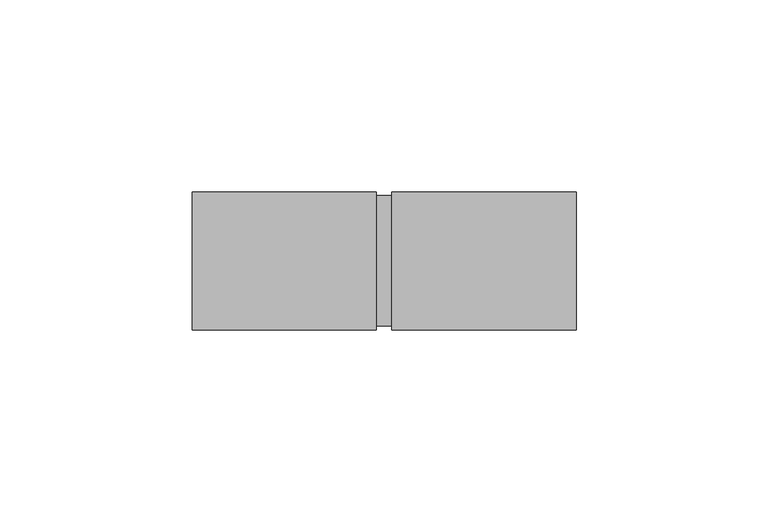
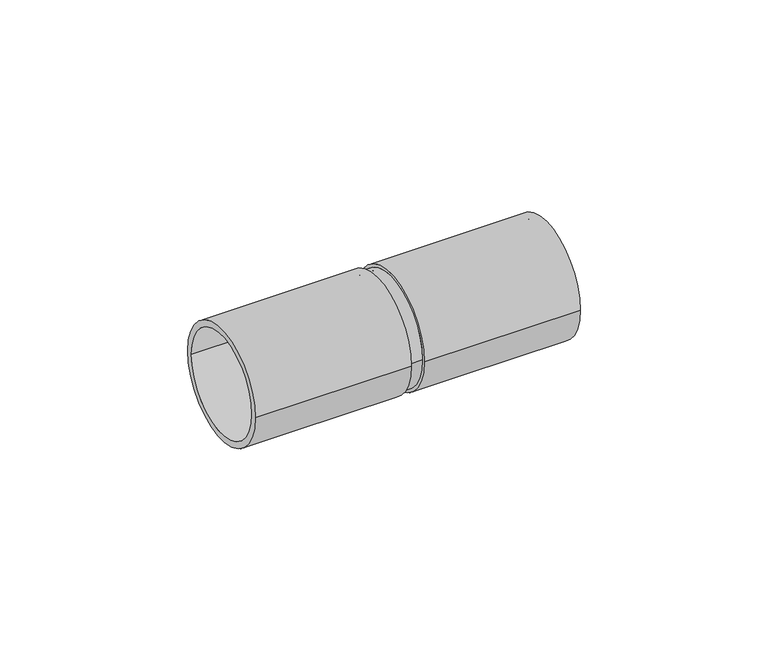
"""IFC4 building model written with IfcOpenShell, lengths in millimetres: cable carrier fitting geometry."""

from ifc_helpers import new_model, si_unit, frame, origin, place, context, project, spatial, polyline, circle_curve, source, transform, mapped, element, save
from ifc_brep_helpers import plane_surface, cylinder_surface, revolved_surface, advanced_brep


def cable_carrier_fitting_a0d49712(model_context):
    return source(origin(), model_context, "Body", "AdvancedBrep", [
        advanced_brep(
        [(-50.0, -18.0, 0.0), (-50.0, 18.0, 0.0), (-50.0, -16.0, 0.0), (-50.0, 16.0, 0.0), (-2.0, -18.0, 0.0), (-2.0, 18.0, 0.0), (-2.0, -17.0, 0.0), (-2.0, 17.0, 0.0), (-2.0, 16.0, 0.0), (-2.0, -16.0, 0.0), (2.0, -16.0, 0.0), (2.0, 16.0, 0.0), (2.0, -17.0, 0.0), (2.0, 17.0, 0.0), (2.0, -18.0, 0.0), (2.0, 18.0, 0.0), (50.0, -18.0, 0.0), (50.0, 18.0, 0.0), (50.0, -16.0, 0.0), (50.0, 16.0, 0.0)],
        [
            (0, 1, circle_curve(frame((-50.0, 0.0, 0.0), z_axis=(-1.0, 0.0, 0.0), x_axis=(0.0, 1.0, 0.0)), 18.0)),
            (1, 0, circle_curve(frame((-50.0, 0.0, 0.0), z_axis=(-1.0, 0.0, 0.0), x_axis=(0.0, 1.0, 0.0)), 18.0)),
            (2, 3, circle_curve(frame((-50.0, 0.0, 0.0), z_axis=(1.0, 0.0, 0.0), x_axis=(0.0, 1.0, 0.0)), 16.0)),
            (3, 2, circle_curve(frame((-50.0, 0.0, 0.0), z_axis=(1.0, 0.0, 0.0), x_axis=(0.0, 1.0, 0.0)), 16.0)),
            (4, 5, circle_curve(frame((-2.0, 0.0, 0.0), z_axis=(1.0, 0.0, 0.0), x_axis=(0.0, 1.0, 0.0)), 18.0)),
            (5, 4, circle_curve(frame((-2.0, 0.0, 0.0), z_axis=(1.0, 0.0, 0.0), x_axis=(0.0, 1.0, 0.0)), 18.0)),
            (6, 7, circle_curve(frame((-2.0, 0.0, 0.0), z_axis=(-1.0, 0.0, 0.0), x_axis=(0.0, 1.0, 0.0)), 17.0)),
            (7, 6, circle_curve(frame((-2.0, 0.0, 0.0), z_axis=(-1.0, 0.0, 0.0), x_axis=(0.0, 1.0, 0.0)), 17.0)),
            (3, 8),
            (8, 9, circle_curve(frame((-2.0, 0.0, 0.0), z_axis=(1.0, 0.0, 0.0), x_axis=(0.0, 1.0, 0.0)), 16.0)),
            (9, 2),
            (9, 8, circle_curve(frame((-2.0, 0.0, 0.0), z_axis=(1.0, 0.0, 0.0), x_axis=(0.0, 1.0, 0.0)), 16.0)),
            (1, 5),
            (4, 0),
            (9, 10),
            (10, 11, circle_curve(frame((2.0, 0.0, 0.0), z_axis=(1.0, 0.0, 0.0), x_axis=(0.0, 1.0, 0.0)), 16.0)),
            (11, 8),
            (11, 10, circle_curve(frame((2.0, 0.0, 0.0), z_axis=(1.0, 0.0, 0.0), x_axis=(0.0, 1.0, 0.0)), 16.0)),
            (6, 12),
            (12, 13, circle_curve(frame((2.0, 0.0, 0.0), z_axis=(-1.0, 0.0, 0.0), x_axis=(0.0, 1.0, 0.0)), 17.0)),
            (13, 7),
            (13, 12, circle_curve(frame((2.0, 0.0, 0.0), z_axis=(-1.0, 0.0, 0.0), x_axis=(0.0, 1.0, 0.0)), 17.0)),
            (14, 15, circle_curve(frame((2.0, 0.0, 0.0), z_axis=(-1.0, 0.0, 0.0), x_axis=(0.0, 1.0, 0.0)), 18.0)),
            (15, 14, circle_curve(frame((2.0, 0.0, 0.0), z_axis=(-1.0, 0.0, 0.0), x_axis=(0.0, 1.0, 0.0)), 18.0)),
            (16, 17, circle_curve(frame((50.0, 0.0, 0.0), z_axis=(1.0, 0.0, 0.0), x_axis=(0.0, 1.0, 0.0)), 18.0)),
            (17, 16, circle_curve(frame((50.0, 0.0, 0.0), z_axis=(1.0, 0.0, 0.0), x_axis=(0.0, 1.0, 0.0)), 18.0)),
            (18, 19, circle_curve(frame((50.0, 0.0, 0.0), z_axis=(-1.0, 0.0, 0.0), x_axis=(0.0, 1.0, 0.0)), 16.0)),
            (19, 18, circle_curve(frame((50.0, 0.0, 0.0), z_axis=(-1.0, 0.0, 0.0), x_axis=(0.0, 1.0, 0.0)), 16.0)),
            (14, 16),
            (17, 15),
            (19, 11),
            (10, 18),
        ],
        [
            plane_surface(frame((-50.0, 0.0, 0.0), z_axis=(-1.0, 0.0, 0.0), x_axis=(0.0, 0.0, 1.0))),
            plane_surface(frame((-2.0, 0.0, 0.0), z_axis=(1.0, 0.0, 0.0), x_axis=(0.0, 0.0, 1.0))),
            revolved_surface(polyline([(-2.0, 16.0, 0.0), (-50.0, 16.0, 0.0)]), (-50.0, 0.0, 0.0), (1.0, 0.0, 0.0)),
            cylinder_surface(frame((-50.0, 0.0, 0.0), z_axis=(-1.0, 0.0, 0.0), x_axis=(0.0, 1.0, 0.0)), 18.0),
            revolved_surface(polyline([(2.0, 16.0, 0.0), (-2.0, 16.0, 0.0)]), (-2.0, 0.0, 0.0), (1.0, 0.0, 0.0)),
            cylinder_surface(frame((-2.0, 0.0, 0.0), z_axis=(-1.0, 0.0, 0.0), x_axis=(0.0, 1.0, 0.0)), 17.0),
            plane_surface(frame((2.0, 0.0, 0.0), z_axis=(-1.0, 0.0, 0.0), x_axis=(0.0, 0.0, 1.0))),
            plane_surface(frame((50.0, 0.0, 0.0), z_axis=(1.0, 0.0, 0.0), x_axis=(0.0, 0.0, 1.0))),
            cylinder_surface(frame((2.0, 0.0, 0.0), z_axis=(-1.0, 0.0, 0.0), x_axis=(0.0, 1.0, 0.0)), 18.0),
            revolved_surface(polyline([(50.0, 16.0, 0.0), (2.0, 16.0, 0.0)]), (2.0, 0.0, 0.0), (1.0, 0.0, 0.0)),
        ],
        [
            (0, [[1, 2], [3, 4]]),
            (1, [[5, 6], [7, 8]]),
            (2, [[-4, 9, 10, 11]]),
            (2, [[-3, -11, 12, -9]]),
            (3, [[-2, 13, -5, 14]]),
            (3, [[-1, -14, -6, -13]]),
            (4, [[15, 16, 17, -12]]),
            (4, [[-15, -10, -17, 18]]),
            (5, [[19, 20, 21, -7]]),
            (5, [[-19, -8, -21, 22]]),
            (6, [[23, 24], [-20, -22]]),
            (7, [[25, 26], [27, 28]]),
            (8, [[-23, 29, -26, 30]]),
            (8, [[-24, -30, -25, -29]]),
            (9, [[-28, 31, -16, 32]]),
            (9, [[-27, -32, -18, -31]]),
        ],
    ),
    ])


if __name__ == "__main__":
    model = new_model("IFC4")
    model_context = context("Model", 3, world=origin())
    ifc_project = project(units=[si_unit("LENGTHUNIT", "METRE", prefix="MILLI")], contexts=[model_context])
    site = spatial("IfcSite", under=ifc_project)
    building = spatial("IfcBuilding", under=site)
    placement = place(None, origin())
    cable_carrier_fitting_shape = cable_carrier_fitting_a0d49712(model_context)
    element("IfcCableCarrierFitting", 1, at=placement, inside=building, context=model_context, shape_type="MappedRepresentation", body=[
        mapped(cable_carrier_fitting_shape, transform((0.0, 0.0, 0.0), x_axis=(1.0, 0.0, 0.0), y_axis=(0.0, 1.0, 0.0), z_axis=(0.0, 0.0, 1.0))),
    ])
    save(model, "model.ifc")
